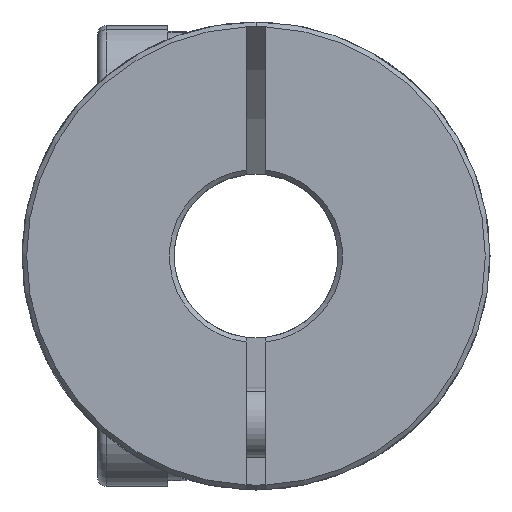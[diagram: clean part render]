
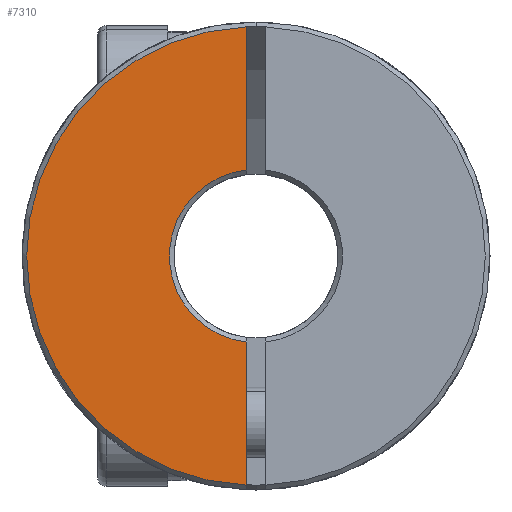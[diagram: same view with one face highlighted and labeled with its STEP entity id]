
A CAD part, front view. The second image highlights one B-rep face of the part: STEP entity #7310.
In plain terms, the highlighted planar face has unit normal (0, -1, 0).
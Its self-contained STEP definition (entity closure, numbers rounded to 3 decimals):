
#23 = DIRECTION ( 'NONE',  ( 0., 1., 0. ) ) ;
#262 = AXIS2_PLACEMENT_3D ( 'NONE', #1097, #23, #6908 ) ;
#738 = LINE ( 'NONE', #5930, #5293 ) ;
#833 = VERTEX_POINT ( 'NONE', #5437 ) ;
#842 = CIRCLE ( 'NONE', #4615, 9.8 ) ;
#897 = DIRECTION ( 'NONE',  ( 0., 0., -1. ) ) ;
#1097 = CARTESIAN_POINT ( 'NONE',  ( 0., -17.5, 0. ) ) ;
#1507 = VERTEX_POINT ( 'NONE', #5523 ) ;
#1730 = PLANE ( 'NONE',  #262 ) ;
#2169 = CARTESIAN_POINT ( 'NONE',  ( -0.4, -17.5, 0. ) ) ;
#2245 = ORIENTED_EDGE ( 'NONE', *, *, #2806, .F. ) ;
#2262 = LINE ( 'NONE', #2169, #3780 ) ;
#2722 = VERTEX_POINT ( 'NONE', #5527 ) ;
#2806 = EDGE_CURVE ( 'NONE', #2722, #833, #2262, .T. ) ;
#3302 = EDGE_CURVE ( 'NONE', #2722, #7222, #842, .T. ) ;
#3690 = ORIENTED_EDGE ( 'NONE', *, *, #3968, .F. ) ;
#3780 = VECTOR ( 'NONE', #6222, 1000. ) ;
#3958 = DIRECTION ( 'NONE',  ( 0., -1., 0. ) ) ;
#3968 = EDGE_CURVE ( 'NONE', #1507, #7222, #738, .T. ) ;
#4108 = EDGE_CURVE ( 'NONE', #1507, #833, #5466, .T. ) ;
#4147 = CARTESIAN_POINT ( 'NONE',  ( 0., -17.5, 0. ) ) ;
#4523 = DIRECTION ( 'NONE',  ( 0., 0., 1. ) ) ;
#4559 = ORIENTED_EDGE ( 'NONE', *, *, #3302, .T. ) ;
#4614 = FACE_OUTER_BOUND ( 'NONE', #7349, .T. ) ;
#4615 = AXIS2_PLACEMENT_3D ( 'NONE', #7344, #3958, #4523 ) ;
#4772 = DIRECTION ( 'NONE',  ( 0., 1., 0. ) ) ;
#5086 = ORIENTED_EDGE ( 'NONE', *, *, #4108, .T. ) ;
#5293 = VECTOR ( 'NONE', #897, 1000. ) ;
#5437 = CARTESIAN_POINT ( 'NONE',  ( -0.4, -17.5, 3.678 ) ) ;
#5466 = CIRCLE ( 'NONE', #6467, 3.7 ) ;
#5523 = CARTESIAN_POINT ( 'NONE',  ( -0.4, -17.5, -3.678 ) ) ;
#5527 = CARTESIAN_POINT ( 'NONE',  ( -0.4, -17.5, 9.792 ) ) ;
#5930 = CARTESIAN_POINT ( 'NONE',  ( -0.4, -17.5, 0. ) ) ;
#5953 = DIRECTION ( 'NONE',  ( 0., 0., 1. ) ) ;
#6222 = DIRECTION ( 'NONE',  ( 0., 0., -1. ) ) ;
#6467 = AXIS2_PLACEMENT_3D ( 'NONE', #4147, #4772, #5953 ) ;
#6755 = CARTESIAN_POINT ( 'NONE',  ( -0.4, -17.5, -9.792 ) ) ;
#6908 = DIRECTION ( 'NONE',  ( 0., 0., 1. ) ) ;
#7222 = VERTEX_POINT ( 'NONE', #6755 ) ;
#7310 = ADVANCED_FACE ( 'NONE', ( #4614 ), #1730, .F. ) ;
#7344 = CARTESIAN_POINT ( 'NONE',  ( 0., -17.5, 0. ) ) ;
#7349 = EDGE_LOOP ( 'NONE', ( #2245, #4559, #3690, #5086 ) ) ;
